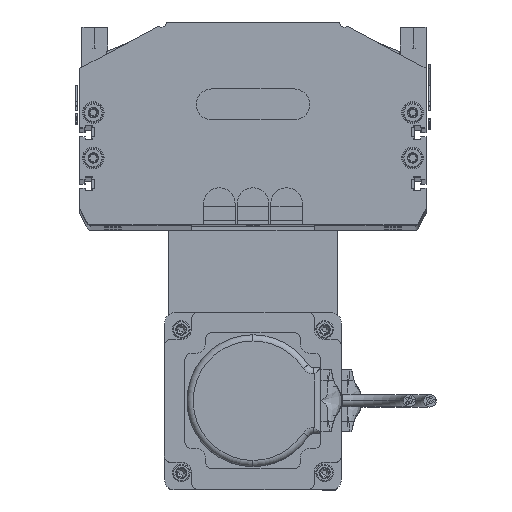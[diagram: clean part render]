
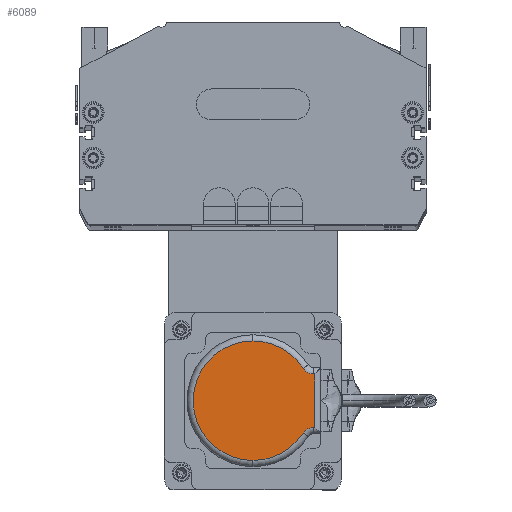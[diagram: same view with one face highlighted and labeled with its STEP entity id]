
A CAD part, top view. The second image highlights one B-rep face of the part: STEP entity #6089.
In plain terms, the highlighted planar face has unit normal (0, 0, 1).
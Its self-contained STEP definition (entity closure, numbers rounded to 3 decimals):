
#6062 = EDGE_CURVE ( 'NONE', #6271, #6268, #38129, .T. ) ;
#6063 = ORIENTED_EDGE ( 'NONE', *, *, #6062, .T. ) ;
#6064 = VERTEX_POINT ( 'NONE', #38166 ) ;
#6066 = ORIENTED_EDGE ( 'NONE', *, *, #6272, .T. ) ;
#6074 = EDGE_CURVE ( 'NONE', #11049, #6064, #38142, .T. ) ;
#6076 = EDGE_LOOP ( 'NONE', ( #6093, #6092, #6086, #11200, #6172, #6066, #8563, #6063 ) ) ;
#6086 = ORIENTED_EDGE ( 'NONE', *, *, #11029, .T. ) ;
#6089 = ADVANCED_FACE ( 'NONE', ( #38190 ), #38260, .T. ) ;
#6092 = ORIENTED_EDGE ( 'NONE', *, *, #11328, .T. ) ;
#6093 = ORIENTED_EDGE ( 'NONE', *, *, #6196, .F. ) ;
#6153 = VERTEX_POINT ( 'NONE', #38199 ) ;
#6172 = ORIENTED_EDGE ( 'NONE', *, *, #11202, .F. ) ;
#6174 = EDGE_CURVE ( 'NONE', #6153, #6271, #39020, .T. ) ;
#6196 = EDGE_CURVE ( 'NONE', #32928, #6268, #39093, .T. ) ;
#6268 = VERTEX_POINT ( 'NONE', #38253 ) ;
#6271 = VERTEX_POINT ( 'NONE', #37209 ) ;
#6272 = EDGE_CURVE ( 'NONE', #11204, #6153, #38406, .T. ) ;
#8563 = ORIENTED_EDGE ( 'NONE', *, *, #6174, .T. ) ;
#11029 = EDGE_CURVE ( 'NONE', #32552, #11049, #55582, .T. ) ;
#11049 = VERTEX_POINT ( 'NONE', #54939 ) ;
#11200 = ORIENTED_EDGE ( 'NONE', *, *, #6074, .T. ) ;
#11202 = EDGE_CURVE ( 'NONE', #11204, #6064, #55602, .T. ) ;
#11204 = VERTEX_POINT ( 'NONE', #55656 ) ;
#11328 = EDGE_CURVE ( 'NONE', #32928, #32552, #55686, .T. ) ;
#32552 = VERTEX_POINT ( 'NONE', #69254 ) ;
#32928 = VERTEX_POINT ( 'NONE', #70013 ) ;
#37209 = CARTESIAN_POINT ( 'NONE',  ( 20., 63., 26. ) ) ;
#38126 = DIRECTION ( 'NONE',  ( 0., -1., 0. ) ) ;
#38127 = VECTOR ( 'NONE', #38126, 1000. ) ;
#38128 = CARTESIAN_POINT ( 'NONE',  ( 20., 33., 26. ) ) ;
#38129 = LINE ( 'NONE', #38128, #38127 ) ;
#38138 = DIRECTION ( 'NONE',  ( 1., 0., 0. ) ) ;
#38139 = DIRECTION ( 'NONE',  ( 0., 0., 1. ) ) ;
#38140 = CARTESIAN_POINT ( 'NONE',  ( 33., 33., 26. ) ) ;
#38141 = AXIS2_PLACEMENT_3D ( 'NONE', #38140, #38139, #38138 ) ;
#38142 = CIRCLE ( 'NONE', #38141, 29. ) ;
#38166 = CARTESIAN_POINT ( 'NONE',  ( 48.743, 57.355, 26. ) ) ;
#38181 = CARTESIAN_POINT ( 'NONE',  ( 33., 33., 26. ) ) ;
#38190 = FACE_OUTER_BOUND ( 'NONE', #6076, .T. ) ;
#38195 = AXIS2_PLACEMENT_3D ( 'NONE', #38181, #38213, #38254 ) ;
#38199 = CARTESIAN_POINT ( 'NONE',  ( 46., 63., 26. ) ) ;
#38213 = DIRECTION ( 'NONE',  ( 0., 0., 1. ) ) ;
#38253 = CARTESIAN_POINT ( 'NONE',  ( 20., 62.394, 26. ) ) ;
#38254 = DIRECTION ( 'NONE',  ( 1., 0., 0. ) ) ;
#38260 = PLANE ( 'NONE',  #38195 ) ;
#38320 = DIRECTION ( 'NONE',  ( 0., 1., 0. ) ) ;
#38322 = VECTOR ( 'NONE', #38320, 1000. ) ;
#38371 = CARTESIAN_POINT ( 'NONE',  ( 46., 33., 26. ) ) ;
#38406 = LINE ( 'NONE', #38371, #38322 ) ;
#39020 = LINE ( 'NONE', #39161, #39174 ) ;
#39093 = CIRCLE ( 'NONE', #39121, 6. ) ;
#39117 = DIRECTION ( 'NONE',  ( 1., 0., 0. ) ) ;
#39118 = DIRECTION ( 'NONE',  ( 0., 0., 1. ) ) ;
#39120 = CARTESIAN_POINT ( 'NONE',  ( 14., 62.394, 26. ) ) ;
#39121 = AXIS2_PLACEMENT_3D ( 'NONE', #39120, #39118, #39117 ) ;
#39161 = CARTESIAN_POINT ( 'NONE',  ( 17.5, 63., 26. ) ) ;
#39174 = VECTOR ( 'NONE', #39197, 1000. ) ;
#39197 = DIRECTION ( 'NONE',  ( -1., 0., 0. ) ) ;
#54939 = CARTESIAN_POINT ( 'NONE',  ( 62., 33., 26. ) ) ;
#55559 = AXIS2_PLACEMENT_3D ( 'NONE', #55570, #55569, #55568 ) ;
#55568 = DIRECTION ( 'NONE',  ( 1., 0., 0. ) ) ;
#55569 = DIRECTION ( 'NONE',  ( 0., 0., 1. ) ) ;
#55570 = CARTESIAN_POINT ( 'NONE',  ( 33., 33., 26. ) ) ;
#55582 = CIRCLE ( 'NONE', #55559, 29. ) ;
#55602 = CIRCLE ( 'NONE', #55606, 6. ) ;
#55606 = AXIS2_PLACEMENT_3D ( 'NONE', #55642, #55627, #55626 ) ;
#55626 = DIRECTION ( 'NONE',  ( 1., 0., 0. ) ) ;
#55627 = DIRECTION ( 'NONE',  ( 0., 0., 1. ) ) ;
#55642 = CARTESIAN_POINT ( 'NONE',  ( 52., 62.394, 26. ) ) ;
#55656 = CARTESIAN_POINT ( 'NONE',  ( 46., 62.394, 26. ) ) ;
#55686 = CIRCLE ( 'NONE', #55729, 29. ) ;
#55726 = DIRECTION ( 'NONE',  ( 1., 0., 0. ) ) ;
#55727 = DIRECTION ( 'NONE',  ( 0., 0., 1. ) ) ;
#55728 = CARTESIAN_POINT ( 'NONE',  ( 33., 33., 26. ) ) ;
#55729 = AXIS2_PLACEMENT_3D ( 'NONE', #55728, #55727, #55726 ) ;
#69254 = CARTESIAN_POINT ( 'NONE',  ( 4., 33., 26. ) ) ;
#70013 = CARTESIAN_POINT ( 'NONE',  ( 17.257, 57.355, 26. ) ) ;
